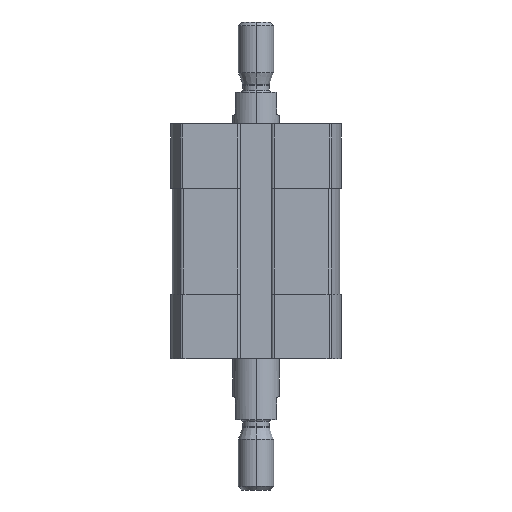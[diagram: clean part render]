
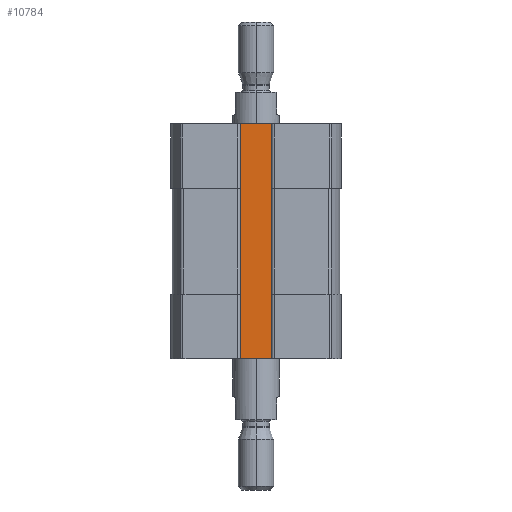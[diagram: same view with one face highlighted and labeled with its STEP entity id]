
A CAD part, left-side view. The second image highlights one B-rep face of the part: STEP entity #10784.
In plain terms, the highlighted planar face has unit normal (-1, 0, 0).
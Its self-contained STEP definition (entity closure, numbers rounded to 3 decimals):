
#775 = VECTOR ( 'NONE', #7603, 1000. ) ;
#809 = PLANE ( 'NONE',  #1029 ) ;
#1029 = AXIS2_PLACEMENT_3D ( 'NONE', #6279, #9923, #10592 ) ;
#1101 = VECTOR ( 'NONE', #10877, 1000. ) ;
#1327 = CARTESIAN_POINT ( 'NONE',  ( -9.3, 3., -40. ) ) ;
#1723 = CARTESIAN_POINT ( 'NONE',  ( -9.3, -3., -40. ) ) ;
#3719 = CARTESIAN_POINT ( 'NONE',  ( -9.3, -3., 0. ) ) ;
#3745 = VERTEX_POINT ( 'NONE', #1723 ) ;
#3759 = ORIENTED_EDGE ( 'NONE', *, *, #6590, .T. ) ;
#4209 = EDGE_CURVE ( 'NONE', #3745, #10433, #4783, .T. ) ;
#4561 = LINE ( 'NONE', #7134, #4639 ) ;
#4639 = VECTOR ( 'NONE', #5335, 1000. ) ;
#4783 = LINE ( 'NONE', #5686, #775 ) ;
#4845 = EDGE_LOOP ( 'NONE', ( #7294, #7793, #3759, #9801 ) ) ;
#5273 = CARTESIAN_POINT ( 'NONE',  ( -9.3, 3., -40. ) ) ;
#5335 = DIRECTION ( 'NONE',  ( 0., -1., 0. ) ) ;
#5686 = CARTESIAN_POINT ( 'NONE',  ( -9.3, -3., -40. ) ) ;
#6279 = CARTESIAN_POINT ( 'NONE',  ( -9.3, 3., -40. ) ) ;
#6590 = EDGE_CURVE ( 'NONE', #9753, #3745, #8089, .T. ) ;
#6732 = LINE ( 'NONE', #1327, #9738 ) ;
#6979 = VERTEX_POINT ( 'NONE', #8069 ) ;
#7134 = CARTESIAN_POINT ( 'NONE',  ( -9.3, 3., 0. ) ) ;
#7294 = ORIENTED_EDGE ( 'NONE', *, *, #11542, .F. ) ;
#7576 = DIRECTION ( 'NONE',  ( 0., 0., 1. ) ) ;
#7603 = DIRECTION ( 'NONE',  ( 0., 0., 1. ) ) ;
#7692 = EDGE_CURVE ( 'NONE', #9753, #6979, #6732, .T. ) ;
#7793 = ORIENTED_EDGE ( 'NONE', *, *, #7692, .F. ) ;
#8069 = CARTESIAN_POINT ( 'NONE',  ( -9.3, 3., 0. ) ) ;
#8082 = FACE_OUTER_BOUND ( 'NONE', #4845, .T. ) ;
#8089 = LINE ( 'NONE', #5273, #1101 ) ;
#8712 = CARTESIAN_POINT ( 'NONE',  ( -9.3, 3., -40. ) ) ;
#9738 = VECTOR ( 'NONE', #7576, 1000. ) ;
#9753 = VERTEX_POINT ( 'NONE', #8712 ) ;
#9801 = ORIENTED_EDGE ( 'NONE', *, *, #4209, .T. ) ;
#9923 = DIRECTION ( 'NONE',  ( -1., 0., 0. ) ) ;
#10433 = VERTEX_POINT ( 'NONE', #3719 ) ;
#10592 = DIRECTION ( 'NONE',  ( 0., 0., 1. ) ) ;
#10784 = ADVANCED_FACE ( 'NONE', ( #8082 ), #809, .T. ) ;
#10877 = DIRECTION ( 'NONE',  ( 0., -1., 0. ) ) ;
#11542 = EDGE_CURVE ( 'NONE', #6979, #10433, #4561, .T. ) ;
